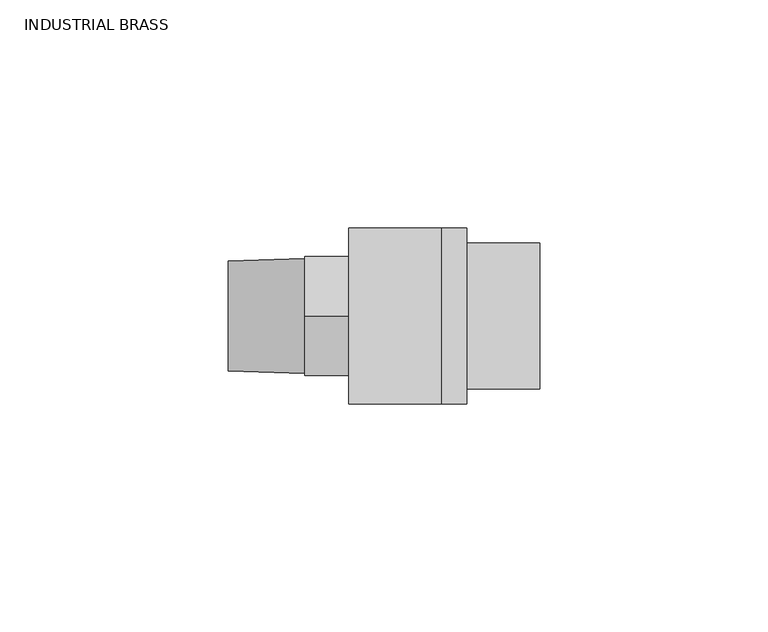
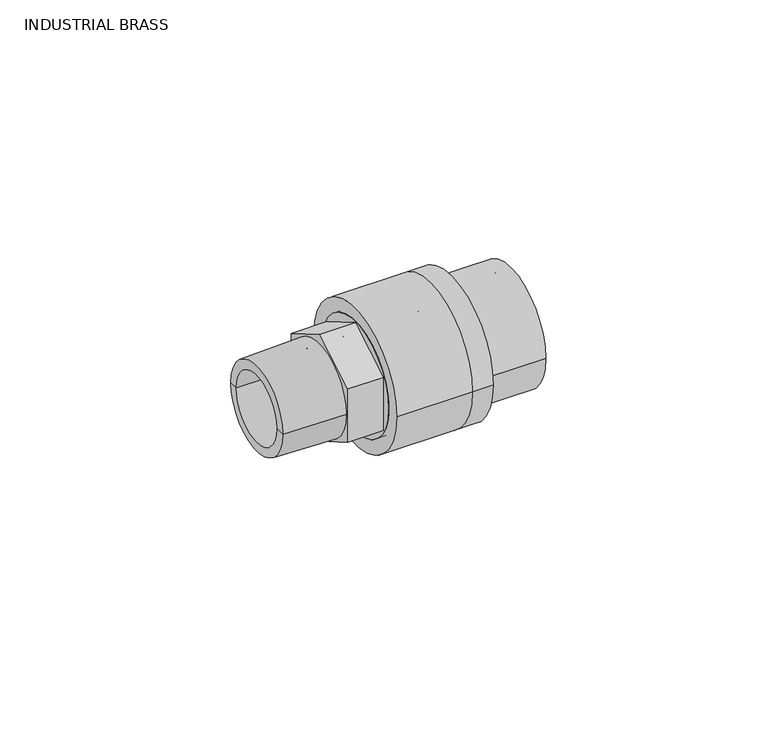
"""IFC4 building model written with IfcOpenShell, lengths in millimetres: valve geometry, Aquatherm - Transition Piece - M HEX : INDUSTRIAL BRASS."""

from ifc_helpers import new_model, si_unit, frame, origin, place, context, project, spatial, polyline, circle_curve, source, transform, mapped, element, save
from ifc_brep_helpers import plane_surface, cylinder_surface, revolved_surface, advanced_brep


def industrial_brass_67574b71(model_context):
    return source(origin(), model_context, "Body", "AdvancedBrep", [
        advanced_brep(
        [(20.32, -15.494, 0.0), (20.32, 15.494, 0.0), (20.32, -9.525, 0.0), (20.32, 9.525, 0.0), (0.0, -15.494, 0.0), (0.0, 15.494, 0.0), (0.0, 0.0, -15.1046377), (0.0, 13.081, -7.5523189), (0.0, 13.081, 7.5523189), (0.0, 0.0, 15.1046377), (0.0, -13.081, 7.5523189), (0.0, -13.081, -7.5523189), (0.0, -9.525, 0.0), (0.0, 9.525, 0.0), (-9.652, 0.0, -15.1046377), (-9.652, -13.081, -7.5523189), (-9.652, -13.081, 7.5523189), (-9.652, 0.0, 15.1046377), (-9.652, 13.081, 7.5523189), (-9.652, 13.081, -7.5523189), (-9.652, -12.5560449, 0.0), (-9.652, 12.5560449, 0.0), (-9.652, -9.525, 0.0), (-9.652, 9.525, 0.0), (-26.416, 9.525, 0.0), (-26.416, -9.525, 0.0), (-26.416, 12.0502051, 0.0), (-26.416, -12.0502051, 0.0)],
        [
            (0, 1, circle_curve(frame((20.32, 0.0, 0.0), z_axis=(1.0, 0.0, 0.0), x_axis=(0.0, 1.0, 0.0)), 15.494)),
            (1, 0, circle_curve(frame((20.32, 0.0, 0.0), z_axis=(1.0, 0.0, 0.0), x_axis=(0.0, 1.0, 0.0)), 15.494)),
            (2, 3, circle_curve(frame((20.32, 0.0, 0.0), z_axis=(-1.0, 0.0, 0.0), x_axis=(0.0, 1.0, 0.0)), 9.525)),
            (3, 2, circle_curve(frame((20.32, 0.0, 0.0), z_axis=(-1.0, 0.0, 0.0), x_axis=(0.0, 1.0, 0.0)), 9.525)),
            (4, 5, circle_curve(frame((0.0, 0.0, 0.0), z_axis=(-1.0, 0.0, 0.0), x_axis=(0.0, 1.0, 0.0)), 15.494)),
            (5, 4, circle_curve(frame((0.0, 0.0, 0.0), z_axis=(-1.0, 0.0, 0.0), x_axis=(0.0, 1.0, 0.0)), 15.494)),
            (6, 7),
            (7, 8),
            (8, 9),
            (9, 10),
            (10, 11),
            (11, 6),
            (0, 4),
            (5, 1),
            (2, 12),
            (12, 13, circle_curve(frame((0.0, 0.0, 0.0), z_axis=(-1.0, 0.0, 0.0), x_axis=(0.0, 1.0, 0.0)), 9.525)),
            (13, 3),
            (13, 12, circle_curve(frame((0.0, 0.0, 0.0), z_axis=(-1.0, 0.0, 0.0), x_axis=(0.0, 1.0, 0.0)), 9.525)),
            (14, 15),
            (15, 16),
            (16, 17),
            (17, 18),
            (18, 19),
            (19, 14),
            (20, 21, circle_curve(frame((-9.652, 0.0, 0.0), z_axis=(1.0, 0.0, 0.0), x_axis=(0.0, 1.0, 0.0)), 12.5560449)),
            (21, 20, circle_curve(frame((-9.652, 0.0, 0.0), z_axis=(1.0, 0.0, 0.0), x_axis=(0.0, 1.0, 0.0)), 12.5560449)),
            (19, 7),
            (6, 14),
            (18, 8),
            (17, 9),
            (16, 10),
            (15, 11),
            (12, 22),
            (22, 23, circle_curve(frame((-9.652, 0.0, 0.0), z_axis=(-1.0, 0.0, 0.0), x_axis=(0.0, 1.0, 0.0)), 9.525)),
            (23, 13),
            (23, 22, circle_curve(frame((-9.652, 0.0, 0.0), z_axis=(-1.0, 0.0, 0.0), x_axis=(0.0, 1.0, 0.0)), 9.525)),
            (23, 24),
            (24, 25, circle_curve(frame((-26.416, 0.0, 0.0), z_axis=(-1.0, 0.0, 0.0), x_axis=(0.0, 1.0, 0.0)), 9.525)),
            (25, 22),
            (25, 24, circle_curve(frame((-26.416, 0.0, 0.0), z_axis=(-1.0, 0.0, 0.0), x_axis=(0.0, 1.0, 0.0)), 9.525)),
            (24, 26),
            (26, 27, circle_curve(frame((-26.416, 0.0, 0.0), z_axis=(-1.0, 0.0, 0.0), x_axis=(0.0, 1.0, 0.0)), 12.0502051)),
            (27, 25),
            (27, 26, circle_curve(frame((-26.416, 0.0, 0.0), z_axis=(-1.0, 0.0, 0.0), x_axis=(0.0, 1.0, 0.0)), 12.0502051)),
            (26, 21),
            (20, 27),
        ],
        [
            plane_surface(frame((20.32, 15.494, 0.0), z_axis=(1.0, 0.0, 0.0), x_axis=(0.0, 0.0, 1.0))),
            plane_surface(frame((0.0, 15.494, 0.0), z_axis=(-1.0, 0.0, 0.0), x_axis=(0.0, 0.0, -1.0))),
            cylinder_surface(frame((0.0, 0.0, 0.0), z_axis=(1.0, 0.0, 0.0), x_axis=(0.0, 1.0, 0.0)), 15.494),
            revolved_surface(polyline([(0.0, 9.525, 0.0), (20.32, 9.525, 0.0)]), (17.447219, 0.0, 0.0), (-1.0, 0.0, 0.0)),
            plane_surface(frame((-9.652, 0.0, -15.1046377), z_axis=(-1.0, 0.0, 0.0), x_axis=(0.0, -0.8660254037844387, -0.49999999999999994))),
            plane_surface(frame((0.0, 0.0, -15.1046377), z_axis=(0.0, 0.49999999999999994, -0.8660254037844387), x_axis=(-1.0, 0.0, 0.0))),
            plane_surface(frame((0.0, 13.081, -7.5523189), z_axis=(0.0, 1.0, 0.0), x_axis=(-1.0, 0.0, 0.0))),
            plane_surface(frame((0.0, 13.081, 7.5523189), z_axis=(0.0, 0.499999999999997, 0.8660254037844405), x_axis=(-1.0, 0.0, 0.0))),
            plane_surface(frame((0.0, 0.0, 15.1046377), z_axis=(0.0, -0.5000000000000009, 0.8660254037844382), x_axis=(-1.0, 0.0, 0.0))),
            plane_surface(frame((0.0, -13.081, 7.5523189), z_axis=(0.0, -1.0, 0.0), x_axis=(-1.0, 0.0, 0.0))),
            plane_surface(frame((0.0, -13.081, -7.5523189), z_axis=(0.0, -0.499999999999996, -0.8660254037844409), x_axis=(-1.0, 0.0, 0.0))),
            revolved_surface(polyline([(-9.652, 9.525, 0.0), (0.0, 9.525, 0.0)]), (0.0, 0.0, 0.0), (-1.0, 0.0, 0.0)),
            revolved_surface(polyline([(-26.416000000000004, 9.525, 0.0), (-9.652000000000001, 9.525, 0.0)]), (-61.2890688, 0.0, 0.0), (-1.0, 0.0, 0.0)),
            plane_surface(frame((-26.416, 0.0, 0.0), z_axis=(-1.0, 0.0, 0.0), x_axis=(0.0, 1.0, 0.0))),
            revolved_surface(polyline([(-9.652, 12.5560449, 0.0), (-26.416, 12.0502051, 0.0)]), (-61.2890688, 0.0, 0.0), (-1.0, 0.0, 0.0)),
        ],
        [
            (0, [[1, 2], [3, 4]]),
            (1, [[5, 6], [7, 8, 9, 10, 11, 12]]),
            (2, [[-1, 13, -6, 14]]),
            (2, [[-2, -14, -5, -13]]),
            (3, [[-3, 15, 16, 17]]),
            (3, [[-4, -17, 18, -15]]),
            (4, [[19, 20, 21, 22, 23, 24], [25, 26]]),
            (5, [[-24, 27, -7, 28]]),
            (6, [[-23, 29, -8, -27]]),
            (7, [[-22, 30, -9, -29]]),
            (8, [[-21, 31, -10, -30]]),
            (9, [[-20, 32, -11, -31]]),
            (10, [[-19, -28, -12, -32]]),
            (11, [[33, 34, 35, -16]]),
            (11, [[-33, -18, -35, 36]]),
            (12, [[37, 38, 39, -36]]),
            (12, [[-37, -34, -39, 40]]),
            (13, [[-38, 41, 42, 43]]),
            (13, [[-40, -43, 44, -41]]),
            (14, [[-42, 45, -25, 46]]),
            (14, [[-44, -46, -26, -45]]),
        ],
    ),
        advanced_brep(
        [(0.0, -19.304, 0.0), (0.0, 19.304, 0.0), (0.0, -15.494, 0.0), (0.0, 15.494, 0.0), (20.32, 19.304, 0.0), (20.32, -19.304, 0.0), (20.32, 15.494, 0.0), (20.32, -15.494, 0.0), (25.908, -19.304, 0.0), (25.908, 19.304, 0.0), (25.908, 16.002, 0.0), (25.908, -16.002, 0.0), (25.908, 12.446, 0.0), (25.908, -12.446, 0.0), (25.908, -9.525, 0.0), (25.908, 9.525, 0.0), (20.32, -9.525, 0.0), (20.32, 9.525, 0.0), (41.91, -16.002, 0.0), (41.91, 16.002, 0.0), (41.91, -12.446, 0.0), (41.91, 12.446, 0.0)],
        [
            (0, 1, circle_curve(frame((0.0, 0.0, 0.0), z_axis=(-1.0, 0.0, 0.0), x_axis=(0.0, 1.0, 0.0)), 19.304)),
            (1, 0, circle_curve(frame((0.0, 0.0, 0.0), z_axis=(-1.0, 0.0, 0.0), x_axis=(0.0, 1.0, 0.0)), 19.304)),
            (2, 3, circle_curve(frame((0.0, 0.0, 0.0), z_axis=(1.0, 0.0, 0.0), x_axis=(0.0, 1.0, 0.0)), 15.494)),
            (3, 2, circle_curve(frame((0.0, 0.0, 0.0), z_axis=(1.0, 0.0, 0.0), x_axis=(0.0, 1.0, 0.0)), 15.494)),
            (1, 4),
            (4, 5, circle_curve(frame((20.32, 0.0, 0.0), z_axis=(-1.0, 0.0, 0.0), x_axis=(0.0, 1.0, 0.0)), 19.304)),
            (5, 0),
            (5, 4, circle_curve(frame((20.32, 0.0, 0.0), z_axis=(-1.0, 0.0, 0.0), x_axis=(0.0, 1.0, 0.0)), 19.304)),
            (3, 6),
            (6, 7, circle_curve(frame((20.32, 0.0, 0.0), z_axis=(1.0, 0.0, 0.0), x_axis=(0.0, 1.0, 0.0)), 15.494)),
            (7, 2),
            (7, 6, circle_curve(frame((20.32, 0.0, 0.0), z_axis=(1.0, 0.0, 0.0), x_axis=(0.0, 1.0, 0.0)), 15.494)),
            (8, 9, circle_curve(frame((25.908, 0.0, 0.0), z_axis=(1.0, 0.0, 0.0), x_axis=(0.0, 1.0, 0.0)), 19.304)),
            (9, 8, circle_curve(frame((25.908, 0.0, 0.0), z_axis=(1.0, 0.0, 0.0), x_axis=(0.0, 1.0, 0.0)), 19.304)),
            (10, 11, circle_curve(frame((25.908, 0.0, 0.0), z_axis=(-1.0, 0.0, 0.0), x_axis=(0.0, 1.0, 0.0)), 16.002)),
            (11, 10, circle_curve(frame((25.908, 0.0, 0.0), z_axis=(-1.0, 0.0, 0.0), x_axis=(0.0, 1.0, 0.0)), 16.002)),
            (12, 13, circle_curve(frame((25.908, 0.0, 0.0), z_axis=(1.0, 0.0, 0.0), x_axis=(0.0, 1.0, 0.0)), 12.446)),
            (13, 12, circle_curve(frame((25.908, 0.0, 0.0), z_axis=(1.0, 0.0, 0.0), x_axis=(0.0, 1.0, 0.0)), 12.446)),
            (14, 15, circle_curve(frame((25.908, 0.0, 0.0), z_axis=(-1.0, 0.0, 0.0), x_axis=(0.0, 1.0, 0.0)), 9.525)),
            (15, 14, circle_curve(frame((25.908, 0.0, 0.0), z_axis=(-1.0, 0.0, 0.0), x_axis=(0.0, 1.0, 0.0)), 9.525)),
            (16, 17, circle_curve(frame((20.32, 0.0, 0.0), z_axis=(1.0, 0.0, 0.0), x_axis=(0.0, 1.0, 0.0)), 9.525)),
            (17, 16, circle_curve(frame((20.32, 0.0, 0.0), z_axis=(1.0, 0.0, 0.0), x_axis=(0.0, 1.0, 0.0)), 9.525)),
            (8, 5),
            (4, 9),
            (14, 16),
            (17, 15),
            (18, 19, circle_curve(frame((41.91, 0.0, 0.0), z_axis=(1.0, 0.0, 0.0), x_axis=(0.0, 1.0, 0.0)), 16.002)),
            (19, 18, circle_curve(frame((41.91, 0.0, 0.0), z_axis=(1.0, 0.0, 0.0), x_axis=(0.0, 1.0, 0.0)), 16.002)),
            (20, 21, circle_curve(frame((41.91, 0.0, 0.0), z_axis=(-1.0, 0.0, 0.0), x_axis=(0.0, 1.0, 0.0)), 12.446)),
            (21, 20, circle_curve(frame((41.91, 0.0, 0.0), z_axis=(-1.0, 0.0, 0.0), x_axis=(0.0, 1.0, 0.0)), 12.446)),
            (18, 11),
            (10, 19),
            (20, 13),
            (12, 21),
        ],
        [
            plane_surface(frame((0.0, 19.304, 0.0), z_axis=(-1.0, 0.0, 0.0), x_axis=(0.0, 0.0, -1.0))),
            cylinder_surface(frame((0.0, 0.0, 0.0), z_axis=(1.0, 0.0, 0.0), x_axis=(0.0, 1.0, 0.0)), 19.304),
            revolved_surface(polyline([(0.0, 15.494, 0.0), (20.32, 15.494, 0.0)]), (-38.1, 0.0, 0.0), (-1.0, 0.0, 0.0)),
            plane_surface(frame((25.908, 19.304, 0.0), z_axis=(1.0, 0.0, 0.0), x_axis=(0.0, 0.0, 1.0))),
            plane_surface(frame((20.32, 19.304, 0.0), z_axis=(-1.0, 0.0, 0.0), x_axis=(0.0, 0.0, -1.0))),
            cylinder_surface(frame((20.32, 0.0, 0.0), z_axis=(1.0, 0.0, 0.0), x_axis=(0.0, 1.0, 0.0)), 19.304),
            revolved_surface(polyline([(20.320000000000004, 9.525, 0.0), (25.907999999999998, 9.525, 0.0)]), (-19.05, 0.0, 0.0), (-1.0, 0.0, 0.0)),
            plane_surface(frame((41.91, 16.002, 0.0), z_axis=(1.0, 0.0, 0.0), x_axis=(0.0, 0.0, 1.0))),
            cylinder_surface(frame((25.908, 0.0, 0.0), z_axis=(1.0, 0.0, 0.0), x_axis=(0.0, 1.0, 0.0)), 16.002),
            revolved_surface(polyline([(25.908, 12.446, 0.0), (41.91, 12.446, 0.0)]), (0.0, 0.0, 0.0), (-1.0, 0.0, 0.0)),
        ],
        [
            (0, [[1, 2], [3, 4]]),
            (1, [[-2, 5, 6, 7]]),
            (1, [[-1, -7, 8, -5]]),
            (2, [[-4, 9, 10, 11]]),
            (2, [[-3, -11, 12, -9]]),
            (3, [[13, 14], [15, 16]]),
            (3, [[17, 18], [19, 20]]),
            (4, [[-10, -12], [21, 22]]),
            (5, [[-13, 23, -6, 24]]),
            (5, [[-14, -24, -8, -23]]),
            (6, [[-19, 25, -22, 26]]),
            (6, [[-20, -26, -21, -25]]),
            (7, [[27, 28], [29, 30]]),
            (8, [[-27, 31, -15, 32]]),
            (8, [[-28, -32, -16, -31]]),
            (9, [[-29, 33, -17, 34]]),
            (9, [[-30, -34, -18, -33]]),
        ],
    ),
    ])


if __name__ == "__main__":
    model = new_model("IFC4")
    model_context = context("Model", 3, world=origin())
    ifc_project = project(units=[si_unit("LENGTHUNIT", "METRE", prefix="MILLI")], contexts=[model_context])
    site = spatial("IfcSite", under=ifc_project)
    building = spatial("IfcBuilding", under=site)
    placement = place(None, origin())
    industrial_brass_shape = industrial_brass_67574b71(model_context)
    element("IfcValve", 1, ObjectType="Aquatherm - Transition Piece - M HEX : INDUSTRIAL BRASS", at=placement, inside=building, context=model_context, shape_type="MappedRepresentation", body=[
        mapped(industrial_brass_shape, transform((0.0, 0.0, 0.0), x_axis=(1.0, 0.0, 0.0), y_axis=(0.0, 1.0, 0.0), z_axis=(0.0, 0.0, 1.0))),
    ])
    save(model, "model.ifc")
